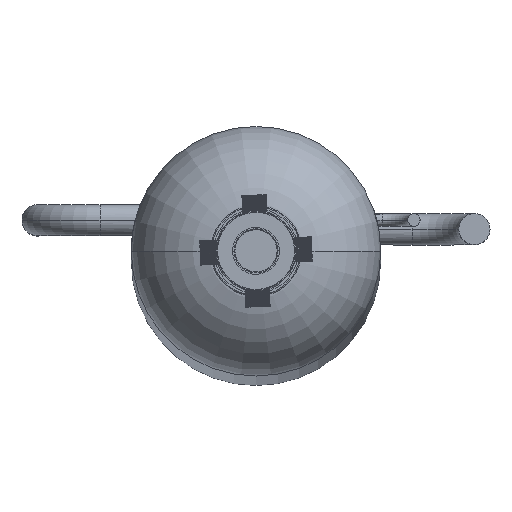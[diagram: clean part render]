
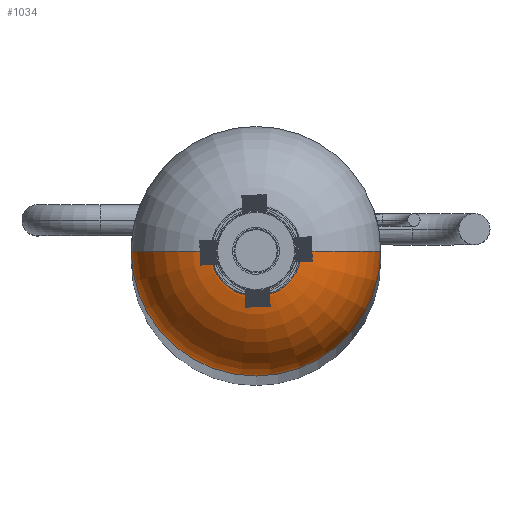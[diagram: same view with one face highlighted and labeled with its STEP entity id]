
A CAD part, top view. The second image highlights one B-rep face of the part: STEP entity #1034.
In plain terms, the highlighted toroidal (fillet/blend) face has major radius 10 mm and minor radius 30 mm.
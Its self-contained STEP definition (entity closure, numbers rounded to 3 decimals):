
#78 = DIRECTION ( 'NONE',  ( 0., 1., 0. ) ) ;
#140 = AXIS2_PLACEMENT_3D ( 'NONE', #34909, #78, #4966 ) ;
#1034 = ADVANCED_FACE ( 'NONE', ( #24604 ), #34506, .T. ) ;
#2719 = CARTESIAN_POINT ( 'NONE',  ( 0., 0., 870. ) ) ;
#4358 = CARTESIAN_POINT ( 'NONE',  ( 0., 0., 900. ) ) ;
#4966 = DIRECTION ( 'NONE',  ( -1., 0., 0. ) ) ;
#6085 = ORIENTED_EDGE ( 'NONE', *, *, #38483, .F. ) ;
#6716 = EDGE_CURVE ( 'NONE', #50662, #11804, #41502, .T. ) ;
#8235 = CARTESIAN_POINT ( 'NONE',  ( 40., 0., 870. ) ) ;
#8477 = CIRCLE ( 'NONE', #50723, 10. ) ;
#8992 = VERTEX_POINT ( 'NONE', #9498 ) ;
#9498 = CARTESIAN_POINT ( 'NONE',  ( 10., 0., 900. ) ) ;
#11631 = AXIS2_PLACEMENT_3D ( 'NONE', #43339, #22034, #44166 ) ;
#11804 = VERTEX_POINT ( 'NONE', #27157 ) ;
#15957 = DIRECTION ( 'NONE',  ( 0., 0., 1. ) ) ;
#16102 = EDGE_CURVE ( 'NONE', #27951, #50662, #46242, .T. ) ;
#19823 = CARTESIAN_POINT ( 'NONE',  ( -40., 0., 870. ) ) ;
#20791 = CIRCLE ( 'NONE', #11631, 30. ) ;
#22034 = DIRECTION ( 'NONE',  ( 0., -1., 0. ) ) ;
#24321 = DIRECTION ( 'NONE',  ( 1., 0., 0. ) ) ;
#24411 = AXIS2_PLACEMENT_3D ( 'NONE', #2719, #15957, #24321 ) ;
#24604 = FACE_OUTER_BOUND ( 'NONE', #36593, .T. ) ;
#26061 = AXIS2_PLACEMENT_3D ( 'NONE', #26965, #31278, #48790 ) ;
#26965 = CARTESIAN_POINT ( 'NONE',  ( 0., 0., 870. ) ) ;
#27157 = CARTESIAN_POINT ( 'NONE',  ( -10., 0., 900. ) ) ;
#27951 = VERTEX_POINT ( 'NONE', #8235 ) ;
#29508 = ORIENTED_EDGE ( 'NONE', *, *, #6716, .F. ) ;
#31278 = DIRECTION ( 'NONE',  ( 0., 0., -1. ) ) ;
#34506 = TOROIDAL_SURFACE ( 'NONE', #24411, 10., 30. ) ;
#34909 = CARTESIAN_POINT ( 'NONE',  ( -10., 0., 870. ) ) ;
#36593 = EDGE_LOOP ( 'NONE', ( #29508, #54305, #47580, #6085 ) ) ;
#38483 = EDGE_CURVE ( 'NONE', #11804, #8992, #8477, .T. ) ;
#38618 = DIRECTION ( 'NONE',  ( 1., 0., 0. ) ) ;
#41502 = CIRCLE ( 'NONE', #140, 30. ) ;
#43339 = CARTESIAN_POINT ( 'NONE',  ( 10., 0., 870. ) ) ;
#43895 = EDGE_CURVE ( 'NONE', #27951, #8992, #20791, .T. ) ;
#44166 = DIRECTION ( 'NONE',  ( 0., 0., -1. ) ) ;
#46242 = CIRCLE ( 'NONE', #26061, 40. ) ;
#47580 = ORIENTED_EDGE ( 'NONE', *, *, #43895, .T. ) ;
#48790 = DIRECTION ( 'NONE',  ( 1., 0., 0. ) ) ;
#50662 = VERTEX_POINT ( 'NONE', #19823 ) ;
#50723 = AXIS2_PLACEMENT_3D ( 'NONE', #4358, #56154, #38618 ) ;
#54305 = ORIENTED_EDGE ( 'NONE', *, *, #16102, .F. ) ;
#56154 = DIRECTION ( 'NONE',  ( 0., 0., 1. ) ) ;
